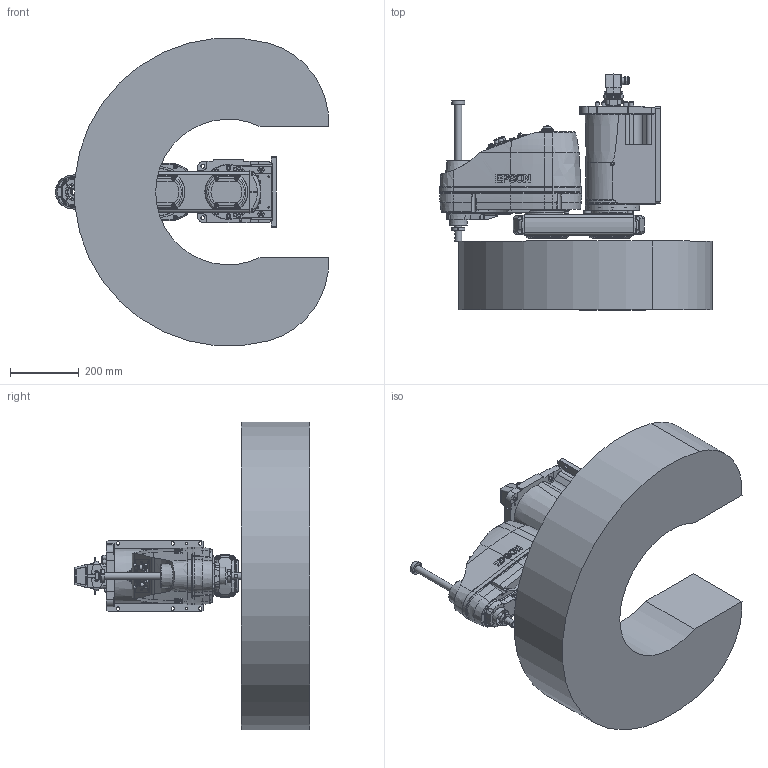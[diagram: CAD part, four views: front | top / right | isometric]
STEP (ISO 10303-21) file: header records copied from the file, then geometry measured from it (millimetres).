
FILE_DESCRIPTION( ( 'STEP AP214' ), '1' );
FILE_NAME( 'C:/Users/9607552/Desktop/GX8-B452SW_langle.stp', '2023-07-07T02:06:47', ( '' ), ( '' ), ' ', 'PARTsolutions', ' ' );
FILE_SCHEMA( ( 'AUTOMOTIVE_DESIGN { 1 0 10303 214 1 1 1 1 }' ) );
Length unit declared in the file: millimetre
Products named in the file (9): GX8-B452SWA-W; _B452SW_BASE; _B452SR; _B452SR_1; _B452SR_2; _B452S_J2; _B452SZA; _Angle-B; _GX8-15-B_WS
Assembly tree (10 placements, depth 2):
  GX8-B452SWA-W
    _B452SW_BASE
    _B452SR
    _B452SR_1  x2
    _B452SR_2  x2
    _B452S_J2
    _B452SZA
    _Angle-B
    _GX8-15-B_WS
Bounding box: 796.98 x 688.1 x 896.58 mm (x, y, z)
Volume: 96377398.7 mm3; surface area: 2548298.5 mm2
Topology: 10 solids, 10 shells, 2865 faces, 7014 edges, 4585 vertices
Faces by surface type: plane 1452, cylinder 933, cone 318, torus 119, bspline 37, sphere 6
Full cylindrical faces by diameter (mm): 1 x48, 1.18 x55, 2.261 x4, 2.459 x12, 3 x32, 3.242 x18, 3.3 x5, 3.9 x4, 4 x4, 4.2 x8, 4.5 x4, 4.8 x5, 5.34 x4, 5.5 x17, 6 x2, 6.2 x4, 6.647 x4, 6.8 x2, 7 x42, 8 x5, 8.5 x4, 9 x24, 10 x24, 11 x4, 11.2 x5, 11.5 x1, 12 x5, 12.25 x1, 13 x7, 13.2 x12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
Entity records: 102228 total; most frequent: CARTESIAN_POINT 19135, DIRECTION 12680, ORIENTED_EDGE 11678, EDGE_CURVE 5839, AXIS2_PLACEMENT_3D 4853, VERTEX_POINT 4216, EDGE_LOOP 3810, FACE_OUTER_BOUND 3165
